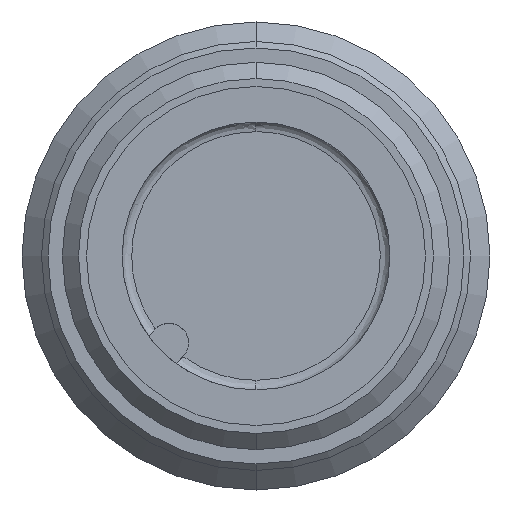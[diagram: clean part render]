
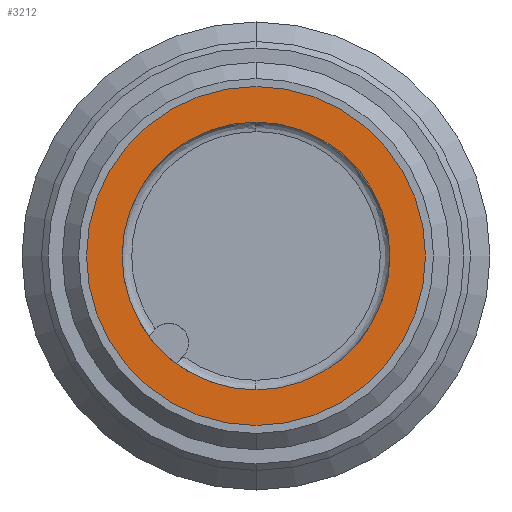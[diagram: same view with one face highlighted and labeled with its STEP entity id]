
A CAD part, front view. The second image highlights one B-rep face of the part: STEP entity #3212.
In plain terms, the highlighted planar face has unit normal (0, -1, 0).
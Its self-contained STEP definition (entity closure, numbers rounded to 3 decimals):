
#345 = AXIS2_PLACEMENT_3D ( 'NONE', #6784, #3299, #9370 ) ;
#481 = DIRECTION ( 'NONE',  ( 1., 0., 0. ) ) ;
#711 = VERTEX_POINT ( 'NONE', #9662 ) ;
#728 = VERTEX_POINT ( 'NONE', #3612 ) ;
#984 = DIRECTION ( 'NONE',  ( 0., 1., 0. ) ) ;
#1032 = CARTESIAN_POINT ( 'NONE',  ( 0., -1., 0. ) ) ;
#1264 = FACE_BOUND ( 'NONE', #5098, .T. ) ;
#1942 = DIRECTION ( 'NONE',  ( 1., 0., 0. ) ) ;
#2673 = CIRCLE ( 'NONE', #9220, 5.25 ) ;
#3122 = ORIENTED_EDGE ( 'NONE', *, *, #7196, .F. ) ;
#3212 = ADVANCED_FACE ( 'NONE', ( #10320, #1264 ), #8511, .T. ) ;
#3299 = DIRECTION ( 'NONE',  ( 0., -1., 0. ) ) ;
#3612 = CARTESIAN_POINT ( 'NONE',  ( -4.15, -1., 0. ) ) ;
#3642 = DIRECTION ( 'NONE',  ( 0., 1., 0. ) ) ;
#4706 = CARTESIAN_POINT ( 'NONE',  ( 4.15, -1., 0. ) ) ;
#4862 = CIRCLE ( 'NONE', #9017, 4.15 ) ;
#5098 = EDGE_LOOP ( 'NONE', ( #8904, #6849 ) ) ;
#5129 = EDGE_CURVE ( 'NONE', #728, #9680, #8401, .T. ) ;
#5808 = DIRECTION ( 'NONE',  ( 0., 1., 0. ) ) ;
#6152 = VERTEX_POINT ( 'NONE', #6203 ) ;
#6203 = CARTESIAN_POINT ( 'NONE',  ( 5.25, -1., 0. ) ) ;
#6295 = CARTESIAN_POINT ( 'NONE',  ( 0., -1., 0. ) ) ;
#6705 = AXIS2_PLACEMENT_3D ( 'NONE', #8847, #3642, #9724 ) ;
#6784 = CARTESIAN_POINT ( 'NONE',  ( -4.7, -1., 0. ) ) ;
#6837 = ORIENTED_EDGE ( 'NONE', *, *, #10069, .F. ) ;
#6849 = ORIENTED_EDGE ( 'NONE', *, *, #5129, .T. ) ;
#7165 = DIRECTION ( 'NONE',  ( 1., 0., 0. ) ) ;
#7189 = AXIS2_PLACEMENT_3D ( 'NONE', #1032, #7203, #1942 ) ;
#7196 = EDGE_CURVE ( 'NONE', #711, #6152, #9254, .T. ) ;
#7203 = DIRECTION ( 'NONE',  ( 0., 1., 0. ) ) ;
#8401 = CIRCLE ( 'NONE', #7189, 4.15 ) ;
#8511 = PLANE ( 'NONE',  #345 ) ;
#8847 = CARTESIAN_POINT ( 'NONE',  ( 0., -1., 0. ) ) ;
#8904 = ORIENTED_EDGE ( 'NONE', *, *, #10534, .T. ) ;
#9017 = AXIS2_PLACEMENT_3D ( 'NONE', #10990, #5808, #481 ) ;
#9220 = AXIS2_PLACEMENT_3D ( 'NONE', #6295, #984, #7165 ) ;
#9254 = CIRCLE ( 'NONE', #6705, 5.25 ) ;
#9370 = DIRECTION ( 'NONE',  ( 0., 0., -1. ) ) ;
#9662 = CARTESIAN_POINT ( 'NONE',  ( -5.25, -1., 0. ) ) ;
#9680 = VERTEX_POINT ( 'NONE', #4706 ) ;
#9724 = DIRECTION ( 'NONE',  ( 1., 0., 0. ) ) ;
#10069 = EDGE_CURVE ( 'NONE', #6152, #711, #2673, .T. ) ;
#10320 = FACE_OUTER_BOUND ( 'NONE', #11294, .T. ) ;
#10534 = EDGE_CURVE ( 'NONE', #9680, #728, #4862, .T. ) ;
#10990 = CARTESIAN_POINT ( 'NONE',  ( 0., -1., 0. ) ) ;
#11294 = EDGE_LOOP ( 'NONE', ( #6837, #3122 ) ) ;
